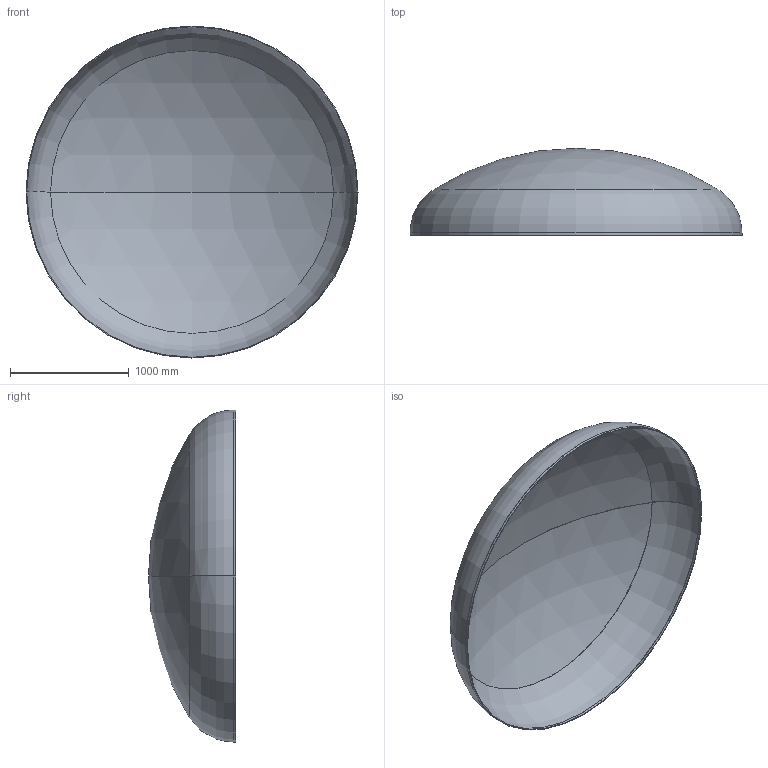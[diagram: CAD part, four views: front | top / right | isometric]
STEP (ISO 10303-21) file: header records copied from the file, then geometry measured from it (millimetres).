
FILE_DESCRIPTION (( 'STEP AP203' ), '1' );
FILE_NAME ('DIN 28013 Korbbogenform_-_Boden DIN 28013 - 2800 x 20 - I - s=6.step', '2016-07-01T16:39:00', ( '' ), ( '' ), 'SwSTEP 2.0', 'SolidWorks 2013', '' );
FILE_SCHEMA (( 'CONFIG_CONTROL_DESIGN' ));
Length unit declared in the file: millimetre
Products named in the file (1): DIN 28013 Korbbogenform_-_Boden DIN 28013 - 2800 x 20 - I - s=6
Bounding box: 2800 x 734.07 x 2800 mm (x, y, z)
Volume: 52053977.9 mm3; surface area: 17404059.9 mm2
Topology: 1 solids, 1 shells, 13 faces, 24 edges, 14 vertices
Faces by surface type: torus 4, cylinder 4, sphere 4, plane 1
Entity records: 407 total; most frequent: DIRECTION 72, CARTESIAN_POINT 52, ORIENTED_EDGE 48, AXIS2_PLACEMENT_3D 34, EDGE_CURVE 24, CIRCLE 20, EDGE_LOOP 14, VERTEX_POINT 14
